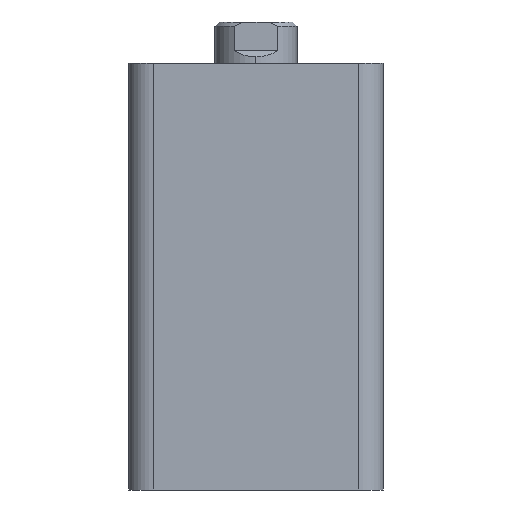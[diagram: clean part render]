
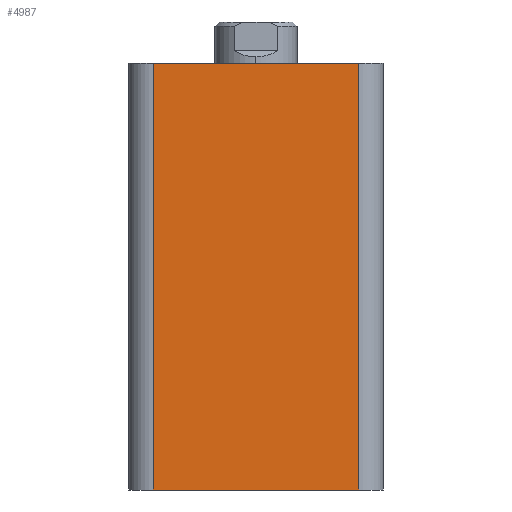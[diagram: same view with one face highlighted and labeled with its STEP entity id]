
A CAD part, left-side view. The second image highlights one B-rep face of the part: STEP entity #4987.
In plain terms, the highlighted planar face has unit normal (-1, 0, 0).
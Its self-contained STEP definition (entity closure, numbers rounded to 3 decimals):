
#95 = VERTEX_POINT ( 'NONE', #2595 ) ;
#99 = VERTEX_POINT ( 'NONE', #2591 ) ;
#226 = CARTESIAN_POINT ( 'NONE',  ( -31., 31., 0. ) ) ;
#233 = DIRECTION ( 'NONE',  ( 0., -1., 0. ) ) ;
#276 = CARTESIAN_POINT ( 'NONE',  ( -31., -25., 104. ) ) ;
#277 = DIRECTION ( 'NONE',  ( 0., 0., 1. ) ) ;
#282 = CARTESIAN_POINT ( 'NONE',  ( -31., 25., 104. ) ) ;
#283 = DIRECTION ( 'NONE',  ( 0., 0., -1. ) ) ;
#379 = CARTESIAN_POINT ( 'NONE',  ( -31., 31., 104. ) ) ;
#380 = DIRECTION ( 'NONE',  ( 0., -1., 0. ) ) ;
#1008 = FACE_OUTER_BOUND ( 'NONE', #3515, .T. ) ;
#1188 = VECTOR ( 'NONE', #380, 1000. ) ;
#1191 = LINE ( 'NONE', #379, #1188 ) ;
#1283 = VERTEX_POINT ( 'NONE', #2451 ) ;
#1448 = VECTOR ( 'NONE', #283, 1000. ) ;
#1688 = CARTESIAN_POINT ( 'NONE',  ( -31., 31., 104. ) ) ;
#1695 = PLANE ( 'NONE',  #3356 ) ;
#1697 = DIRECTION ( 'NONE',  ( 1., 0., 0. ) ) ;
#1698 = DIRECTION ( 'NONE',  ( 0., 0., -1. ) ) ;
#2451 = CARTESIAN_POINT ( 'NONE',  ( -31., 25., 104. ) ) ;
#2591 = CARTESIAN_POINT ( 'NONE',  ( -31., 25., 0. ) ) ;
#2595 = CARTESIAN_POINT ( 'NONE',  ( -31., -25., 0. ) ) ;
#2636 = EDGE_CURVE ( 'NONE', #99, #95, #2922, .T. ) ;
#2651 = EDGE_CURVE ( 'NONE', #95, #3120, #5054, .T. ) ;
#2654 = EDGE_CURVE ( 'NONE', #1283, #99, #5048, .T. ) ;
#2689 = EDGE_CURVE ( 'NONE', #1283, #3120, #1191, .T. ) ;
#2920 = VECTOR ( 'NONE', #233, 1000. ) ;
#2922 = LINE ( 'NONE', #226, #2920 ) ;
#3120 = VERTEX_POINT ( 'NONE', #4798 ) ;
#3356 = AXIS2_PLACEMENT_3D ( 'NONE', #1688, #1697, #1698 ) ;
#3515 = EDGE_LOOP ( 'NONE', ( #3813, #3814, #3815, #3816 ) ) ;
#3813 = ORIENTED_EDGE ( 'NONE', *, *, #2636, .T. ) ;
#3814 = ORIENTED_EDGE ( 'NONE', *, *, #2651, .T. ) ;
#3815 = ORIENTED_EDGE ( 'NONE', *, *, #2689, .F. ) ;
#3816 = ORIENTED_EDGE ( 'NONE', *, *, #2654, .T. ) ;
#4798 = CARTESIAN_POINT ( 'NONE',  ( -31., -25., 104. ) ) ;
#4987 = ADVANCED_FACE ( 'NONE', ( #1008 ), #1695, .F. ) ;
#5048 = LINE ( 'NONE', #282, #1448 ) ;
#5051 = VECTOR ( 'NONE', #277, 1000. ) ;
#5054 = LINE ( 'NONE', #276, #5051 ) ;
